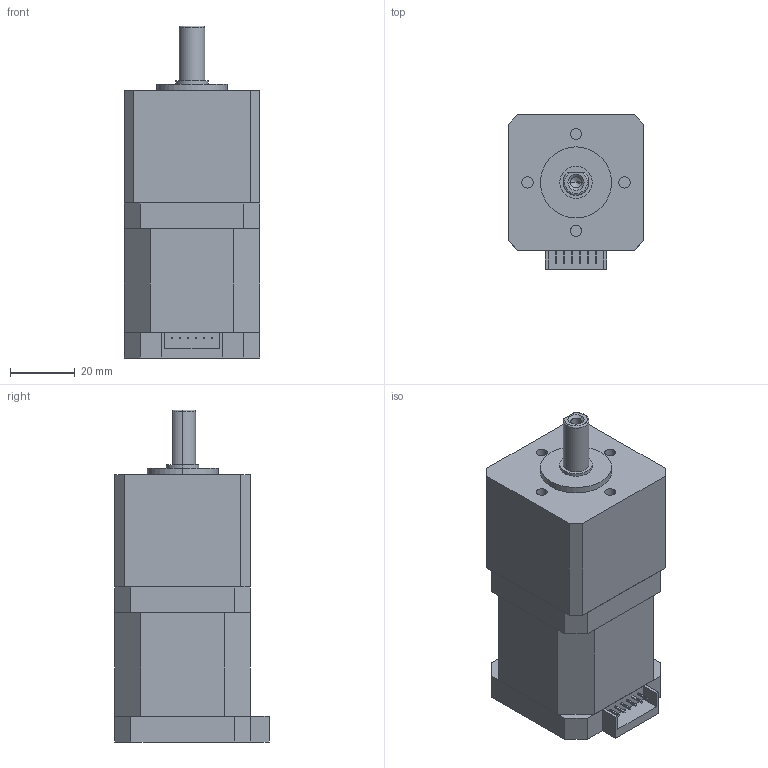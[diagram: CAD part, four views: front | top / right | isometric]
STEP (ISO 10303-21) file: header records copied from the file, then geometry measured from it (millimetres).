
FILE_DESCRIPTION (( 'STEP AP203' ), '1' );
FILE_NAME ('42PG050-D20-0448.STEP', '2019-10-12T08:24:44', ( 'China' ), ( 'Home' ), 'SwSTEP 2.0', 'SolidWorks 2016', '' );
FILE_SCHEMA (( 'CONFIG_CONTROL_DESIGN' ));
Length unit declared in the file: millimetre
Products named in the file (1): 42PG050-D20-0448
Bounding box: 42 x 47.8 x 102.8 mm (x, y, z)
Volume: 142314.5 mm3; surface area: 27791.9 mm2
Topology: 4 solids, 4 shells, 118 faces, 277 edges, 179 vertices
Faces by surface type: plane 86, cylinder 17, cone 12, torus 3
Entity records: 3515 total; most frequent: CARTESIAN_POINT 706, DIRECTION 554, ORIENTED_EDGE 550, EDGE_CURVE 275, LINE 224, VECTOR 224, VERTEX_POINT 179, AXIS2_PLACEMENT_3D 165
